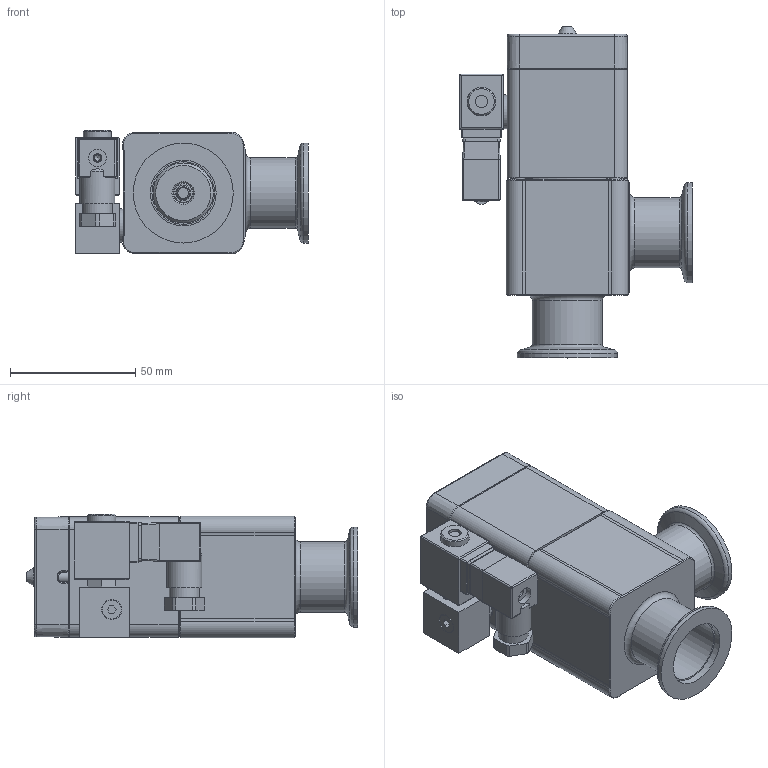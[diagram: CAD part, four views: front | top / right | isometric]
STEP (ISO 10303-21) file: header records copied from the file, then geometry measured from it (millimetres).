
FILE_DESCRIPTION(/* description */ (''),/* implementation_level */ '2;1');
FILE_NAME(/* name */ '1122887968_203.stp',/* time_stamp */ '2013-07-17T08:44:58+02:00',/* author */ (''),/* organization */ (''),/* preprocessor_version */ 'ST-DEVELOPER v11',/* originating_system */ 'SIEMENS PLM Software NX 7.5',/* authorisation */ '');
FILE_SCHEMA (('AP203_CONFIGURATION_CONTROLLED_3D_DESIGN_OF_MECHANICAL_PARTS_AND_ASSEMBLIES_MIM_LF'));
Length unit declared in the file: millimetre
Products named in the file (12): 233359; 236204_1.1; 238513.2; 238512.3; 239359.4; 245188.1; 243878.2; 232362.12; 238487.6; 239983.3; 235683.15_NX-ARRAGMNTZUSAMMENST1; 701713
Assembly tree (15 placements, depth 3):
  701713
    238487.6
    235683.15_NX-ARRAGMNTZUSAMMENST1
      238512.3
      238513.2
    232362.12
    243878.2
    245188.1  x4
    239359.4
    239983.3
      236204_1.1  x2
      233359
Bounding box: 93 x 132.51 x 49.39 mm (x, y, z)
Volume: 163179.6 mm3; surface area: 81142.3 mm2
Topology: 22 solids, 22 shells, 732 faces, 1729 edges, 1106 vertices
Faces by surface type: plane 400, cylinder 191, cone 101, bspline 24, torus 12, sphere 4
Full cylindrical faces by diameter (mm): 2.5 x4, 2.95 x1, 3 x8, 3.2 x4, 3.26 x4, 3.3 x5, 4 x12, 4.2 x1, 4.4 x1, 4.5 x4, 4.7 x3, 5 x4, 5.1 x1, 5.6 x2, 6 x4, 7 x5, 7.4 x2, 7.6 x1, 7.9 x1, 7.975 x3, 8 x6, 8.012 x2, 9.25 x1, 10.2 x1, 11.3 x1, 11.4 x1, 11.5 x2, 12 x1, 13.5 x1, 14 x2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
Entity records: 20633 total; most frequent: CARTESIAN_POINT 4164, DIRECTION 3044, ORIENTED_EDGE 2746, EDGE_CURVE 1373, AXIS2_PLACEMENT_3D 1103, VERTEX_POINT 977, EDGE_LOOP 916, LINE 838
